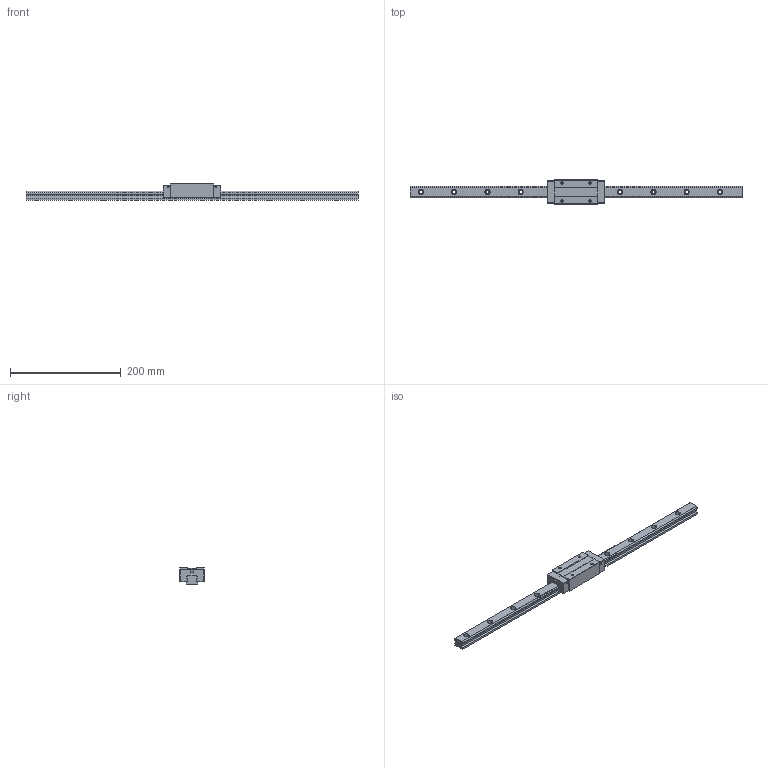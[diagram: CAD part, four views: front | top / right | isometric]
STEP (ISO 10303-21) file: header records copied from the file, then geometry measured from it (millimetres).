
FILE_DESCRIPTION (( 'STEP AP203' ), '1' );
FILE_NAME ('TRH20VE-SU.STEP', '2024-06-26T03:16:12', ( '' ), ( '' ), 'SwSTEP 2.0', 'SolidWorks 2022', '' );
FILE_SCHEMA (( 'CONFIG_CONTROL_DESIGN' ));
Length unit declared in the file: millimetre
Products named in the file (1): TRH20VE-SU
Bounding box: 600 x 44 x 30 mm (x, y, z)
Volume: 256818.4 mm3; surface area: 68975.1 mm2
Topology: 2 solids, 2 shells, 196 faces, 512 edges, 332 vertices
Faces by surface type: cylinder 96, plane 84, cone 16
Entity records: 6127 total; most frequent: DIRECTION 1098, CARTESIAN_POINT 1033, ORIENTED_EDGE 1008, EDGE_CURVE 504, AXIS2_PLACEMENT_3D 397, VERTEX_POINT 332, VECTOR 304, LINE 304
